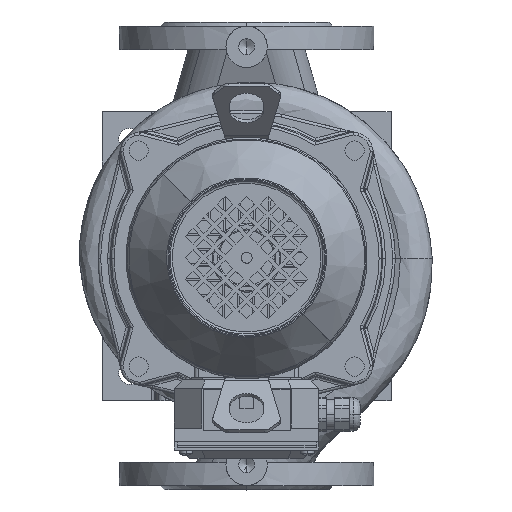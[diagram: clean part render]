
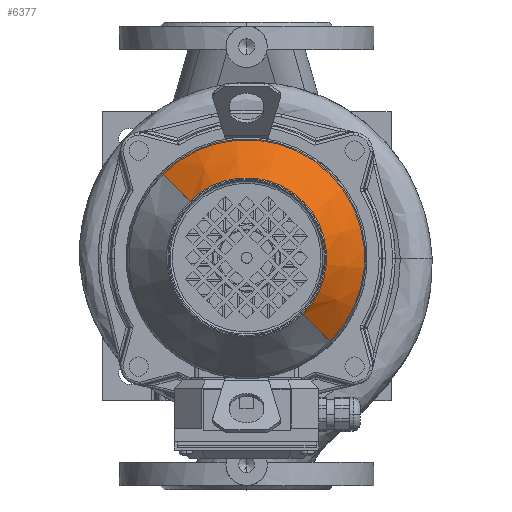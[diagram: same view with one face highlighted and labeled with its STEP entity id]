
A CAD part, top view. The second image highlights one B-rep face of the part: STEP entity #6377.
In plain terms, the highlighted conical face has half-angle 37 degrees and reference radius 58.108 mm.
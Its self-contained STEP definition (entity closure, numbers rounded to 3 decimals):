
#6377=ADVANCED_FACE('NONE',(#15022),#15023,.T.);
#15022=FACE_OUTER_BOUND('',#31362,.T.);
#15023=CONICAL_SURFACE('',#31363,58.108,0.646);
#31362=EDGE_LOOP('',(#48769,#48770,#48771,#48772));
#31363=AXIS2_PLACEMENT_3D('',#48773,#48774,#48775);
#48769=ORIENTED_EDGE('',*,*,#57139,.T.);
#48770=ORIENTED_EDGE('',*,*,#57217,.T.);
#48771=ORIENTED_EDGE('',*,*,#57140,.T.);
#48772=ORIENTED_EDGE('',*,*,#57243,.F.);
#48773=CARTESIAN_POINT('',(0.0,96.403,0.0));
#48774=DIRECTION('',(-0.0,-1.0,-0.0));
#48775=DIRECTION('',(0.0,0.0,-1.0));
#57139=EDGE_CURVE('',#69768,#69771,#69772,.T.);
#57140=EDGE_CURVE('',#69773,#69766,#69774,.T.);
#57217=EDGE_CURVE('NONE',#69771,#69773,#69905,.T.);
#57243=EDGE_CURVE('NONE',#69768,#69766,#69937,.T.);
#69766=VERTEX_POINT('',#92878);
#69768=VERTEX_POINT('NONE',#92880);
#69771=VERTEX_POINT('NONE',#92883);
#69772=LINE('',#92884,#92885);
#69773=VERTEX_POINT('',#92886);
#69774=LINE('',#92887,#92888);
#69905=CIRCLE('',#93381,86.592);
#69937=CIRCLE('',#93611,58.108);
#92878=CARTESIAN_POINT('',(0.,96.403,58.108));
#92880=CARTESIAN_POINT('',(0.,96.403,-58.108));
#92883=CARTESIAN_POINT('',(0.0,58.603,-86.592));
#92884=CARTESIAN_POINT('',(0.,96.403,-58.108));
#92885=VECTOR('',#103767,1.0);
#92886=CARTESIAN_POINT('',(0.,58.603,86.592));
#92887=CARTESIAN_POINT('',(0.,96.403,58.108));
#92888=VECTOR('',#103768,1.0);
#93381=AXIS2_PLACEMENT_3D('',#103895,#103896,#103897);
#93611=AXIS2_PLACEMENT_3D('',#103955,#103956,#103957);
#103767=DIRECTION('',(0.,-0.799,-0.602));
#103768=DIRECTION('',(0.,0.799,-0.602));
#103895=CARTESIAN_POINT('',(0.0,58.603,0.0));
#103896=DIRECTION('',(-0.0,1.0,0.0));
#103897=DIRECTION('',(0.0,0.0,1.0));
#103955=CARTESIAN_POINT('',(0.0,96.403,0.0));
#103956=DIRECTION('',(-0.0,1.0,0.0));
#103957=DIRECTION('',(0.0,0.0,1.0));
